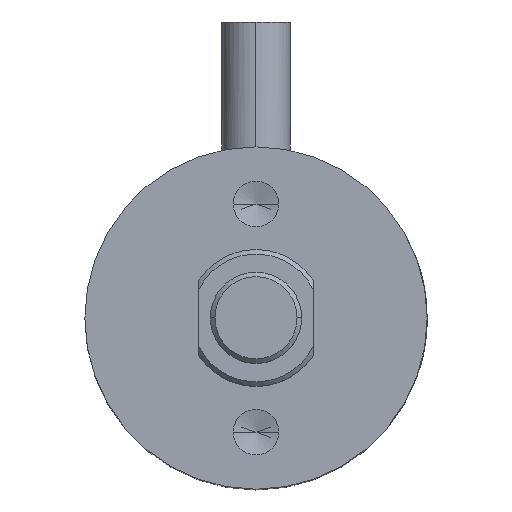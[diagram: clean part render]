
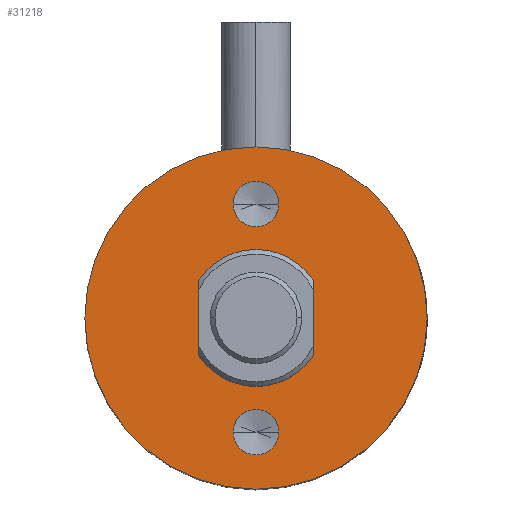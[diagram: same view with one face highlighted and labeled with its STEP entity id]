
A CAD part, top view. The second image highlights one B-rep face of the part: STEP entity #31218.
In plain terms, the highlighted planar face has unit normal (0, 0, 1).
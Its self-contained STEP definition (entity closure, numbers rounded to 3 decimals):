
#29 = CARTESIAN_POINT ( 'NONE',  ( -1., -5., 19.5 ) ) ;
#363 = CARTESIAN_POINT ( 'NONE',  ( 0., 0., 19.5 ) ) ;
#1536 = DIRECTION ( 'NONE',  ( 0., 0., 1. ) ) ;
#2243 = DIRECTION ( 'NONE',  ( 0., 0., 1. ) ) ;
#2366 = ORIENTED_EDGE ( 'NONE', *, *, #27801, .T. ) ;
#2721 = AXIS2_PLACEMENT_3D ( 'NONE', #363, #15033, #46067 ) ;
#3693 = CARTESIAN_POINT ( 'NONE',  ( -2.5, 1.658, 19.5 ) ) ;
#3970 = CARTESIAN_POINT ( 'NONE',  ( -2.5, -1.658, 19.5 ) ) ;
#5263 = CARTESIAN_POINT ( 'NONE',  ( 0., -5., 19.5 ) ) ;
#5569 = DIRECTION ( 'NONE',  ( 0., 0., 1. ) ) ;
#5574 = ORIENTED_EDGE ( 'NONE', *, *, #24406, .F. ) ;
#5766 = AXIS2_PLACEMENT_3D ( 'NONE', #20913, #5569, #43781 ) ;
#5996 = VERTEX_POINT ( 'NONE', #3693 ) ;
#6670 = CIRCLE ( 'NONE', #17228, 1. ) ;
#7465 = ORIENTED_EDGE ( 'NONE', *, *, #11400, .F. ) ;
#7699 = VERTEX_POINT ( 'NONE', #11746 ) ;
#8196 = DIRECTION ( 'NONE',  ( 0., 0., 1. ) ) ;
#8539 = CARTESIAN_POINT ( 'NONE',  ( 0., 0., 19.5 ) ) ;
#8711 = EDGE_CURVE ( 'NONE', #7699, #21648, #49010, .T. ) ;
#8764 = DIRECTION ( 'NONE',  ( 1., 0., 0. ) ) ;
#8888 = VECTOR ( 'NONE', #48765, 1000. ) ;
#9754 = CIRCLE ( 'NONE', #46525, 7.5 ) ;
#10422 = ORIENTED_EDGE ( 'NONE', *, *, #47360, .T. ) ;
#10720 = AXIS2_PLACEMENT_3D ( 'NONE', #8539, #8196, #34818 ) ;
#10726 = CARTESIAN_POINT ( 'NONE',  ( 0., 0., 19.5 ) ) ;
#10825 = FACE_OUTER_BOUND ( 'NONE', #34098, .T. ) ;
#11078 = VERTEX_POINT ( 'NONE', #18396 ) ;
#11400 = EDGE_CURVE ( 'NONE', #21648, #7699, #43605, .T. ) ;
#11746 = CARTESIAN_POINT ( 'NONE',  ( 1., 5., 19.5 ) ) ;
#13333 = ORIENTED_EDGE ( 'NONE', *, *, #42936, .T. ) ;
#13565 = ORIENTED_EDGE ( 'NONE', *, *, #8711, .F. ) ;
#13964 = AXIS2_PLACEMENT_3D ( 'NONE', #29735, #18757, #34044 ) ;
#15033 = DIRECTION ( 'NONE',  ( 0., 0., 1. ) ) ;
#16566 = EDGE_LOOP ( 'NONE', ( #13565, #7465 ) ) ;
#17027 = CARTESIAN_POINT ( 'NONE',  ( 0., 5., 19.5 ) ) ;
#17228 = AXIS2_PLACEMENT_3D ( 'NONE', #28725, #2243, #48125 ) ;
#17847 = LINE ( 'NONE', #29522, #8888 ) ;
#18247 = CARTESIAN_POINT ( 'NONE',  ( 0., 0., 19.5 ) ) ;
#18396 = CARTESIAN_POINT ( 'NONE',  ( 2.5, -1.658, 19.5 ) ) ;
#18757 = DIRECTION ( 'NONE',  ( 0., 0., 1. ) ) ;
#18845 = EDGE_CURVE ( 'NONE', #44091, #20823, #6670, .T. ) ;
#18913 = ORIENTED_EDGE ( 'NONE', *, *, #40534, .F. ) ;
#20584 = CARTESIAN_POINT ( 'NONE',  ( 7.5, 0., 19.5 ) ) ;
#20762 = ORIENTED_EDGE ( 'NONE', *, *, #23438, .F. ) ;
#20823 = VERTEX_POINT ( 'NONE', #29 ) ;
#20913 = CARTESIAN_POINT ( 'NONE',  ( 0., 0., 19.5 ) ) ;
#21076 = CARTESIAN_POINT ( 'NONE',  ( 2.5, 1.658, 19.5 ) ) ;
#21138 = EDGE_LOOP ( 'NONE', ( #13333, #20762, #2366, #5574 ) ) ;
#21585 = LINE ( 'NONE', #22249, #40572 ) ;
#21648 = VERTEX_POINT ( 'NONE', #41329 ) ;
#22104 = DIRECTION ( 'NONE',  ( 1., 0., 0. ) ) ;
#22249 = CARTESIAN_POINT ( 'NONE',  ( -2.5, -6.39, 19.5 ) ) ;
#23014 = EDGE_CURVE ( 'NONE', #31894, #48710, #9754, .T. ) ;
#23208 = VERTEX_POINT ( 'NONE', #21076 ) ;
#23438 = EDGE_CURVE ( 'NONE', #35987, #11078, #47161, .T. ) ;
#24406 = EDGE_CURVE ( 'NONE', #23208, #5996, #32328, .T. ) ;
#24942 = EDGE_LOOP ( 'NONE', ( #32499, #18913 ) ) ;
#26513 = DIRECTION ( 'NONE',  ( 0., 1., 0. ) ) ;
#27801 = EDGE_CURVE ( 'NONE', #35987, #5996, #21585, .T. ) ;
#28182 = CARTESIAN_POINT ( 'NONE',  ( 1., -5., 19.5 ) ) ;
#28573 = CIRCLE ( 'NONE', #30085, 1. ) ;
#28725 = CARTESIAN_POINT ( 'NONE',  ( 0., -5., 19.5 ) ) ;
#29398 = AXIS2_PLACEMENT_3D ( 'NONE', #10726, #45553, #30963 ) ;
#29522 = CARTESIAN_POINT ( 'NONE',  ( 2.5, -6.39, 19.5 ) ) ;
#29735 = CARTESIAN_POINT ( 'NONE',  ( 0., 5., 19.5 ) ) ;
#30085 = AXIS2_PLACEMENT_3D ( 'NONE', #5263, #39518, #8764 ) ;
#30963 = DIRECTION ( 'NONE',  ( 1., 0., 0. ) ) ;
#31218 = ADVANCED_FACE ( 'NONE', ( #44083, #10825, #41669, #45252 ), #44613, .T. ) ;
#31894 = VERTEX_POINT ( 'NONE', #39595 ) ;
#32328 = CIRCLE ( 'NONE', #5766, 3. ) ;
#32499 = ORIENTED_EDGE ( 'NONE', *, *, #18845, .F. ) ;
#34044 = DIRECTION ( 'NONE',  ( 1., 0., 0. ) ) ;
#34098 = EDGE_LOOP ( 'NONE', ( #41851, #10422 ) ) ;
#34407 = CIRCLE ( 'NONE', #10720, 7.5 ) ;
#34818 = DIRECTION ( 'NONE',  ( 1., 0., 0. ) ) ;
#35987 = VERTEX_POINT ( 'NONE', #3970 ) ;
#39518 = DIRECTION ( 'NONE',  ( 0., 0., 1. ) ) ;
#39595 = CARTESIAN_POINT ( 'NONE',  ( -7.5, 0., 19.5 ) ) ;
#39944 = DIRECTION ( 'NONE',  ( 1., 0., 0. ) ) ;
#40534 = EDGE_CURVE ( 'NONE', #20823, #44091, #28573, .T. ) ;
#40572 = VECTOR ( 'NONE', #26513, 1000. ) ;
#41329 = CARTESIAN_POINT ( 'NONE',  ( -1., 5., 19.5 ) ) ;
#41633 = AXIS2_PLACEMENT_3D ( 'NONE', #17027, #1536, #39944 ) ;
#41669 = FACE_BOUND ( 'NONE', #24942, .T. ) ;
#41851 = ORIENTED_EDGE ( 'NONE', *, *, #23014, .T. ) ;
#41948 = DIRECTION ( 'NONE',  ( 0., 0., 1. ) ) ;
#42936 = EDGE_CURVE ( 'NONE', #23208, #11078, #17847, .T. ) ;
#43605 = CIRCLE ( 'NONE', #41633, 1. ) ;
#43781 = DIRECTION ( 'NONE',  ( 1., 0., 0. ) ) ;
#44083 = FACE_BOUND ( 'NONE', #21138, .T. ) ;
#44091 = VERTEX_POINT ( 'NONE', #28182 ) ;
#44613 = PLANE ( 'NONE',  #2721 ) ;
#45252 = FACE_BOUND ( 'NONE', #16566, .T. ) ;
#45553 = DIRECTION ( 'NONE',  ( 0., 0., 1. ) ) ;
#46067 = DIRECTION ( 'NONE',  ( 1., 0., 0. ) ) ;
#46525 = AXIS2_PLACEMENT_3D ( 'NONE', #18247, #41948, #22104 ) ;
#47161 = CIRCLE ( 'NONE', #29398, 3. ) ;
#47360 = EDGE_CURVE ( 'NONE', #48710, #31894, #34407, .T. ) ;
#48125 = DIRECTION ( 'NONE',  ( 1., 0., 0. ) ) ;
#48710 = VERTEX_POINT ( 'NONE', #20584 ) ;
#48765 = DIRECTION ( 'NONE',  ( 0., -1., 0. ) ) ;
#49010 = CIRCLE ( 'NONE', #13964, 1. ) ;
